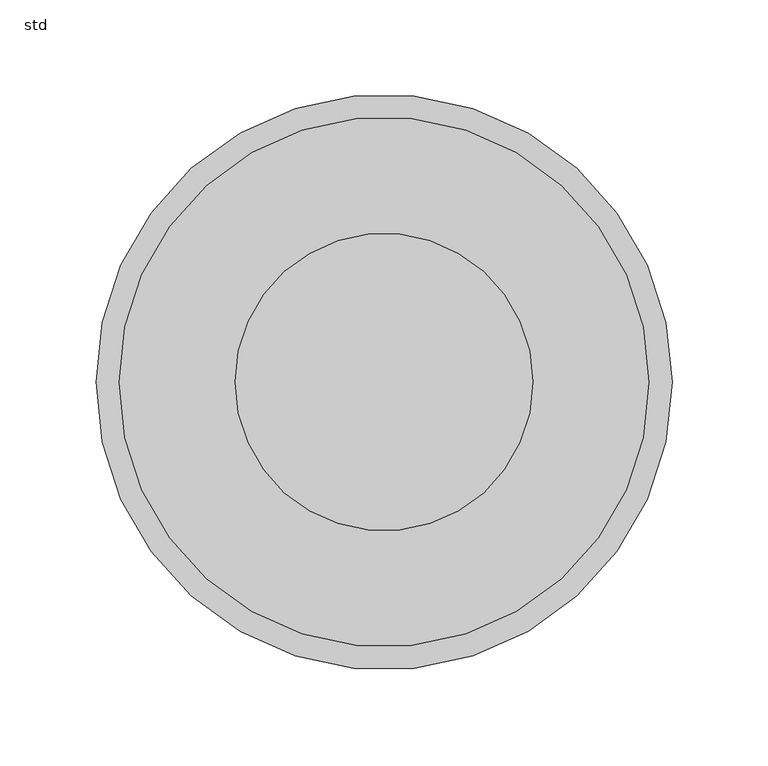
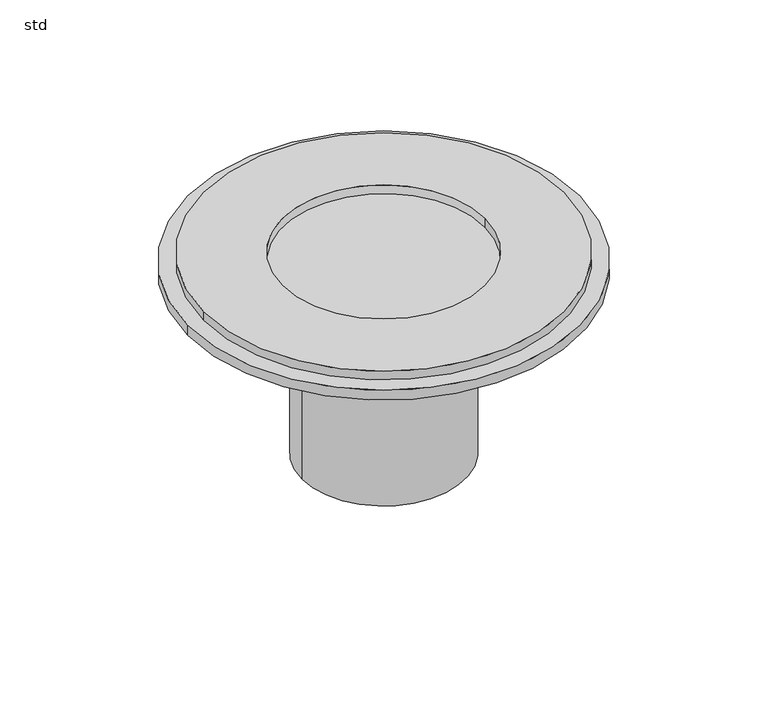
"""IFC4 building model written with IfcOpenShell, lengths in millimetres: sanitary terminal geometry, ZZZ_do_not_use_PF_CI_UN_upper part_ACO : std."""

from ifc_helpers import new_model, si_unit, point, frame, origin, origin_with_axes, origin_2d, place, context, project, spatial, circle_curve, trimmed, segment, composite_curve, outline, extrude, source, transform, mapped, element, save
from ifc_brep_helpers import plane_surface, cylinder_surface, advanced_brep


def std_c2912f09(model_context):
    return source(origin(), model_context, "Body", "SolidModel", [
        extrude(outline(composite_curve([segment(trimmed(circle_curve(origin_2d(), 62.5), [point((-62.5, 0.0))], [point((62.5, 0.0))], False, "CARTESIAN"), True, "CONTINUOUS"), segment(trimmed(circle_curve(origin_2d(), 62.5), [point((62.5, 0.0))], [point((-62.5, 0.0))], False, "CARTESIAN"), True, "CONTINUOUS")], self_intersect=False)), frame((0.0, 0.0, -155.0), z_axis=(0.0, 0.0, 1.0), x_axis=(1.0, 0.0, 0.0)), (0.0, 0.0, 1.0), 110.0),
        extrude(outline(composite_curve([segment(trimmed(circle_curve(origin_2d(), 70.0), [point((-70.0, 0.0))], [point((70.0, 0.0))], False, "CARTESIAN"), True, "CONTINUOUS"), segment(trimmed(circle_curve(origin_2d(), 70.0), [point((70.0, 0.0))], [point((-70.0, 0.0))], False, "CARTESIAN"), True, "CONTINUOUS")], self_intersect=False)), frame((0.0, 0.0, -45.0), z_axis=(0.0, 0.0, 1.0), x_axis=(1.0, 0.0, 0.0)), (0.0, 0.0, 1.0), 21.0),
        extrude(outline(composite_curve([segment(trimmed(circle_curve(origin_2d(), 138.0), [point((-138.0, 0.0))], [point((138.0, 0.0))], False, "CARTESIAN"), True, "CONTINUOUS"), segment(trimmed(circle_curve(origin_2d(), 138.0), [point((138.0, 0.0))], [point((-138.0, 0.0))], False, "CARTESIAN"), True, "CONTINUOUS")], self_intersect=False), holes=[composite_curve([segment(trimmed(circle_curve(origin_2d(), 77.5), [point((-77.5, 0.0))], [point((77.5, 0.0))], True, "CARTESIAN"), True, "CONTINUOUS"), segment(trimmed(circle_curve(origin_2d(), 77.5), [point((77.5, 0.0))], [point((-77.5, 0.0))], True, "CARTESIAN"), True, "CONTINUOUS")], self_intersect=False)]), origin_with_axes(), (0.0, 0.0, 1.0), 7.0),
        advanced_brep(
        [(-77.5, 0.0, -24.0), (77.5, 0.0, -24.0), (77.5, 0.0, -8.0), (-77.5, 0.0, -8.0), (-150.0, 0.0, -8.0), (150.0, 0.0, -8.0), (-150.0, 0.0, 0.0), (150.0, 0.0, 0.0)],
        [
            (0, 1, circle_curve(frame((0.0, 0.0, -24.0), z_axis=(0.0, 0.0, -1.0), x_axis=(1.0, 0.0, 0.0)), 77.5)),
            (1, 0, circle_curve(frame((0.0, 0.0, -24.0), z_axis=(0.0, 0.0, -1.0), x_axis=(1.0, 0.0, 0.0)), 77.5)),
            (1, 2),
            (2, 3, circle_curve(frame((0.0, 0.0, -8.0), z_axis=(0.0, 0.0, -1.0), x_axis=(1.0, 0.0, 0.0)), 77.5)),
            (3, 0),
            (3, 2, circle_curve(frame((0.0, 0.0, -8.0), z_axis=(0.0, 0.0, -1.0), x_axis=(1.0, 0.0, 0.0)), 77.5)),
            (4, 5, circle_curve(frame((0.0, 0.0, -8.0), z_axis=(0.0, 0.0, -1.0), x_axis=(1.0, 0.0, 0.0)), 150.0)),
            (5, 4, circle_curve(frame((0.0, 0.0, -8.0), z_axis=(0.0, 0.0, -1.0), x_axis=(1.0, 0.0, 0.0)), 150.0)),
            (6, 7, circle_curve(origin_with_axes(), 150.0)),
            (7, 6, circle_curve(origin_with_axes(), 150.0)),
            (5, 7),
            (6, 4),
        ],
        [
            plane_surface(frame((77.5, 0.0, -24.0), z_axis=(0.0, 0.0, -1.0), x_axis=(0.0, -1.0, 0.0))),
            cylinder_surface(frame((0.0, 0.0, -24.0), z_axis=(0.0, 0.0, 1.0), x_axis=(1.0, 0.0, 0.0)), 77.5),
            plane_surface(frame((150.0, 0.0, -8.0), z_axis=(0.0, 0.0, -1.0), x_axis=(0.0, -1.0, 0.0))),
            plane_surface(frame((150.0, 0.0, 0.0), z_axis=(0.0, 0.0, 1.0), x_axis=(0.0, 1.0, 0.0))),
            cylinder_surface(frame((0.0, 0.0, -8.0), z_axis=(0.0, 0.0, 1.0), x_axis=(1.0, 0.0, 0.0)), 150.0),
        ],
        [
            (0, [[1, 2]]),
            (1, [[-2, 3, 4, 5]]),
            (1, [[-1, -5, 6, -3]]),
            (2, [[7, 8], [-4, -6]]),
            (3, [[9, 10]]),
            (4, [[-8, 11, -9, 12]]),
            (4, [[-7, -12, -10, -11]]),
        ],
    ),
    ])


if __name__ == "__main__":
    model = new_model("IFC4")
    model_context = context("Model", 3, world=origin())
    ifc_project = project(units=[si_unit("LENGTHUNIT", "METRE", prefix="MILLI")], contexts=[model_context])
    site = spatial("IfcSite", under=ifc_project)
    building = spatial("IfcBuilding", under=site)
    placement = place(None, origin())
    std_shape = std_c2912f09(model_context)
    element("IfcSanitaryTerminal", 1, ObjectType="ZZZ_do_not_use_PF_CI_UN_upper part_ACO : std", at=placement, inside=building, context=model_context, shape_type="MappedRepresentation", body=[
        mapped(std_shape, transform((0.0, 0.0, 0.0), x_axis=(1.0, 0.0, 0.0), y_axis=(0.0, 1.0, 0.0), z_axis=(0.0, 0.0, 1.0))),
    ])
    save(model, "model.ifc")
